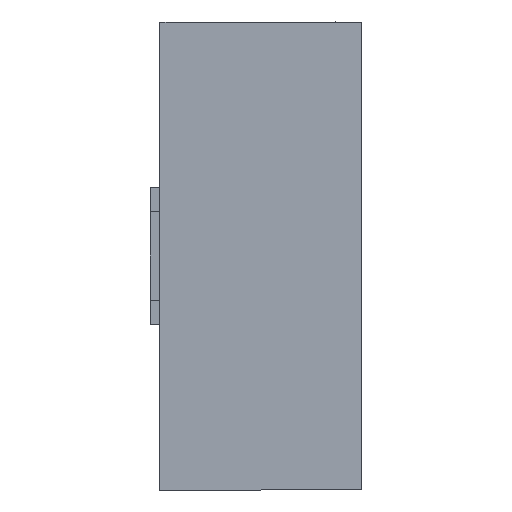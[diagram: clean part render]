
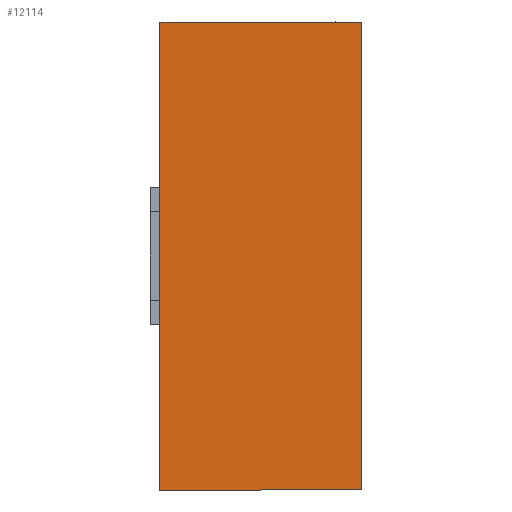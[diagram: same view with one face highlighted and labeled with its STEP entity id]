
A CAD part, left-side view. The second image highlights one B-rep face of the part: STEP entity #12114.
In plain terms, the highlighted planar face has unit normal (-1, 0, 0).
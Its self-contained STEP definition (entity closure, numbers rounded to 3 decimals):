
#1337 = CARTESIAN_POINT ( 'NONE',  ( 0., 22.569, 0. ) ) ;
#1356 = CARTESIAN_POINT ( 'NONE',  ( 0., 22.569, 29. ) ) ;
#1357 = DIRECTION ( 'NONE',  ( 0., 0., -1. ) ) ;
#1358 = VECTOR ( 'NONE', #1357, 1000. ) ;
#1359 = CARTESIAN_POINT ( 'NONE',  ( 0., 22.569, 0. ) ) ;
#1360 = LINE ( 'NONE', #1359, #1358 ) ;
#1541 = CARTESIAN_POINT ( 'NONE',  ( 0., 10.069, 29. ) ) ;
#1542 = DIRECTION ( 'NONE',  ( 0., 1., 0. ) ) ;
#1543 = VECTOR ( 'NONE', #1542, 1000. ) ;
#1544 = CARTESIAN_POINT ( 'NONE',  ( 0., 10.069, 29. ) ) ;
#1545 = LINE ( 'NONE', #1544, #1543 ) ;
#1611 = CARTESIAN_POINT ( 'NONE',  ( 0., 10.069, 0. ) ) ;
#1612 = DIRECTION ( 'NONE',  ( 0., 1., 0. ) ) ;
#1613 = VECTOR ( 'NONE', #1612, 1000. ) ;
#1614 = CARTESIAN_POINT ( 'NONE',  ( 0., 15.569, 0. ) ) ;
#1615 = LINE ( 'NONE', #1614, #1613 ) ;
#1636 = DIRECTION ( 'NONE',  ( 0., 0., 1. ) ) ;
#1637 = DIRECTION ( 'NONE',  ( -1., 0., 0. ) ) ;
#1638 = CARTESIAN_POINT ( 'NONE',  ( 0., 10.069, 0. ) ) ;
#1639 = AXIS2_PLACEMENT_3D ( 'NONE', #1638, #1637, #1636 ) ;
#1640 = PLANE ( 'NONE',  #1639 ) ;
#1641 = FACE_OUTER_BOUND ( 'NONE', #12182, .T. ) ;
#1673 = DIRECTION ( 'NONE',  ( 0., 0., -1. ) ) ;
#1674 = VECTOR ( 'NONE', #1673, 1000. ) ;
#1675 = CARTESIAN_POINT ( 'NONE',  ( 0., 10.069, 0. ) ) ;
#1676 = LINE ( 'NONE', #1675, #1674 ) ;
#11772 = VERTEX_POINT ( 'NONE', #1337 ) ;
#11775 = EDGE_CURVE ( 'NONE', #11776, #11772, #1360, .T. ) ;
#11776 = VERTEX_POINT ( 'NONE', #1356 ) ;
#11938 = EDGE_CURVE ( 'NONE', #11939, #11776, #1545, .T. ) ;
#11939 = VERTEX_POINT ( 'NONE', #1541 ) ;
#12114 = ADVANCED_FACE ( 'NONE', ( #1641 ), #1640, .T. ) ;
#12182 = EDGE_LOOP ( 'NONE', ( #12183, #12186, #12188, #12189 ) ) ;
#12183 = ORIENTED_EDGE ( 'NONE', *, *, #12184, .F. ) ;
#12184 = EDGE_CURVE ( 'NONE', #12185, #11772, #1615, .T. ) ;
#12185 = VERTEX_POINT ( 'NONE', #1611 ) ;
#12186 = ORIENTED_EDGE ( 'NONE', *, *, #12187, .F. ) ;
#12187 = EDGE_CURVE ( 'NONE', #11939, #12185, #1676, .T. ) ;
#12188 = ORIENTED_EDGE ( 'NONE', *, *, #11938, .T. ) ;
#12189 = ORIENTED_EDGE ( 'NONE', *, *, #11775, .T. ) ;
